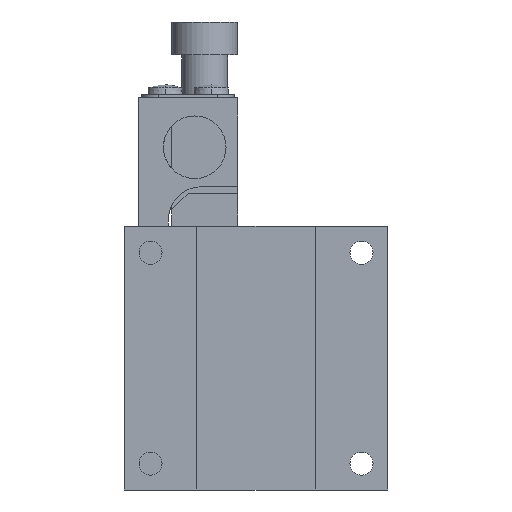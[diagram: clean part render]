
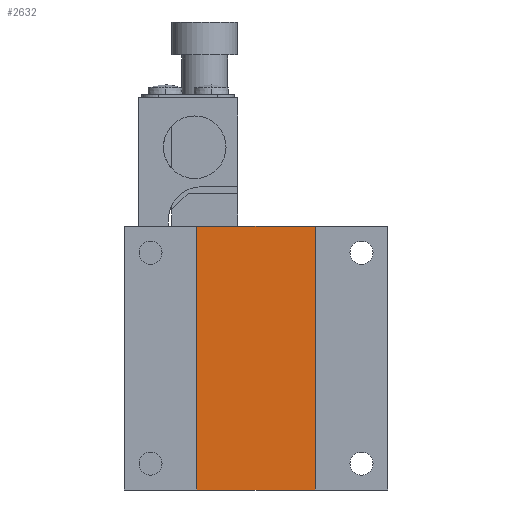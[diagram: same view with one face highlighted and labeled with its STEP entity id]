
A CAD part, front view. The second image highlights one B-rep face of the part: STEP entity #2632.
In plain terms, the highlighted planar face has unit normal (0, -1, 0).
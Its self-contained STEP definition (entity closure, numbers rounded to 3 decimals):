
#2250 = VERTEX_POINT ( 'NONE', #7737 ) ;
#2252 = EDGE_CURVE ( 'NONE', #2253, #2250, #7736, .T. ) ;
#2253 = VERTEX_POINT ( 'NONE', #8084 ) ;
#2304 = VERTEX_POINT ( 'NONE', #8069 ) ;
#2306 = EDGE_CURVE ( 'NONE', #2304, #2307, #8068, .T. ) ;
#2307 = VERTEX_POINT ( 'NONE', #8064 ) ;
#2562 = ORIENTED_EDGE ( 'NONE', *, *, #2252, .T. ) ;
#2563 = ORIENTED_EDGE ( 'NONE', *, *, #2564, .F. ) ;
#2564 = EDGE_CURVE ( 'NONE', #2307, #2250, #8226, .T. ) ;
#2565 = ORIENTED_EDGE ( 'NONE', *, *, #2306, .F. ) ;
#2566 = ORIENTED_EDGE ( 'NONE', *, *, #2629, .T. ) ;
#2629 = EDGE_CURVE ( 'NONE', #2304, #2253, #8328, .T. ) ;
#2632 = ADVANCED_FACE ( 'NONE', ( #8324 ), #8323, .F. ) ;
#2633 = EDGE_LOOP ( 'NONE', ( #2562, #2563, #2565, #2566 ) ) ;
#7733 = DIRECTION ( 'NONE',  ( 1., 0., 0. ) ) ;
#7734 = VECTOR ( 'NONE', #7733, 1000. ) ;
#7735 = CARTESIAN_POINT ( 'NONE',  ( -9., 0.5, -20. ) ) ;
#7736 = LINE ( 'NONE', #7735, #7734 ) ;
#7737 = CARTESIAN_POINT ( 'NONE',  ( 9., 0.5, -20. ) ) ;
#8064 = CARTESIAN_POINT ( 'NONE',  ( 9., 0.5, 20. ) ) ;
#8065 = DIRECTION ( 'NONE',  ( 1., 0., 0. ) ) ;
#8066 = VECTOR ( 'NONE', #8065, 1000. ) ;
#8067 = CARTESIAN_POINT ( 'NONE',  ( -9., 0.5, 20. ) ) ;
#8068 = LINE ( 'NONE', #8067, #8066 ) ;
#8069 = CARTESIAN_POINT ( 'NONE',  ( -9., 0.5, 20. ) ) ;
#8084 = CARTESIAN_POINT ( 'NONE',  ( -9., 0.5, -20. ) ) ;
#8223 = DIRECTION ( 'NONE',  ( 0., 0., -1. ) ) ;
#8224 = VECTOR ( 'NONE', #8223, 1000. ) ;
#8225 = CARTESIAN_POINT ( 'NONE',  ( 9., 0.5, 20. ) ) ;
#8226 = LINE ( 'NONE', #8225, #8224 ) ;
#8319 = DIRECTION ( 'NONE',  ( 0., 0., 1. ) ) ;
#8320 = DIRECTION ( 'NONE',  ( 0., 1., 0. ) ) ;
#8321 = CARTESIAN_POINT ( 'NONE',  ( -9., 0.5, 20. ) ) ;
#8322 = AXIS2_PLACEMENT_3D ( 'NONE', #8321, #8320, #8319 ) ;
#8323 = PLANE ( 'NONE',  #8322 ) ;
#8324 = FACE_OUTER_BOUND ( 'NONE', #2633, .T. ) ;
#8325 = DIRECTION ( 'NONE',  ( 0., 0., -1. ) ) ;
#8326 = VECTOR ( 'NONE', #8325, 1000. ) ;
#8327 = CARTESIAN_POINT ( 'NONE',  ( -9., 0.5, 20. ) ) ;
#8328 = LINE ( 'NONE', #8327, #8326 ) ;
